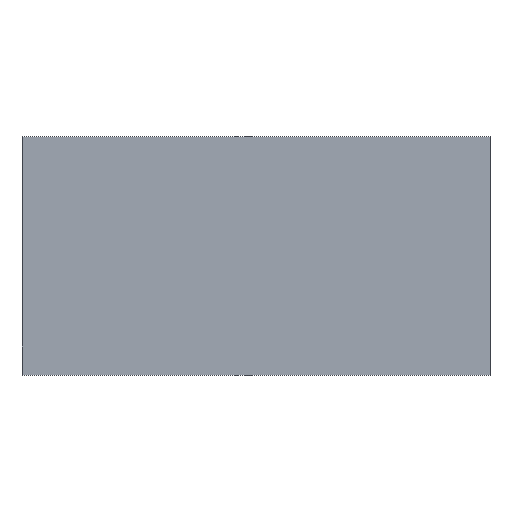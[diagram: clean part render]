
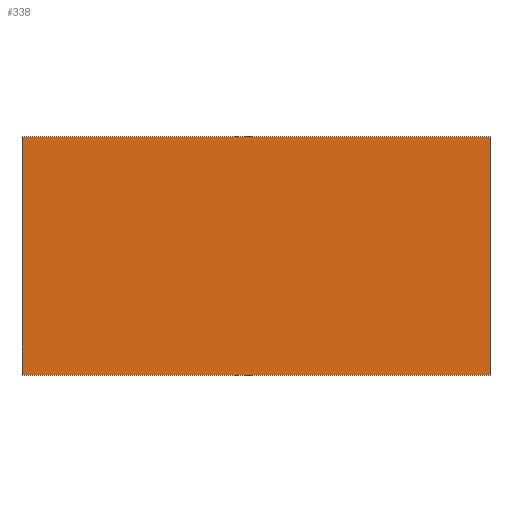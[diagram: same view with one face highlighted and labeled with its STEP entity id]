
A CAD part, top view. The second image highlights one B-rep face of the part: STEP entity #338.
In plain terms, the highlighted planar face has unit normal (0, 0, 1).
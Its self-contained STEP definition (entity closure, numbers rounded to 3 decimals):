
#24 = VERTEX_POINT('',#25);
#25 = CARTESIAN_POINT('',(563.,-14.,29.));
#32 = PLANE('',#33);
#33 = AXIS2_PLACEMENT_3D('',#34,#35,#36);
#34 = CARTESIAN_POINT('',(563.,-14.,16.));
#35 = DIRECTION('',(1.,0.,0.));
#36 = DIRECTION('',(0.,0.,1.));
#44 = PLANE('',#45);
#45 = AXIS2_PLACEMENT_3D('',#46,#47,#48);
#46 = CARTESIAN_POINT('',(563.,-14.,16.));
#47 = DIRECTION('',(0.,1.,0.));
#48 = DIRECTION('',(0.,0.,1.));
#85 = VERTEX_POINT('',#86);
#86 = CARTESIAN_POINT('',(563.,14.,29.));
#100 = PLANE('',#101);
#101 = AXIS2_PLACEMENT_3D('',#102,#103,#104);
#102 = CARTESIAN_POINT('',(563.,14.,16.));
#103 = DIRECTION('',(0.,1.,0.));
#104 = DIRECTION('',(0.,0.,1.));
#112 = EDGE_CURVE('',#24,#85,#113,.T.);
#113 = SURFACE_CURVE('',#114,(#118,#125),.PCURVE_S1.);
#114 = LINE('',#115,#116);
#115 = CARTESIAN_POINT('',(563.,-14.,29.));
#116 = VECTOR('',#117,1.);
#117 = DIRECTION('',(0.,1.,0.));
#118 = PCURVE('',#32,#119);
#119 = DEFINITIONAL_REPRESENTATION('',(#120),#124);
#120 = LINE('',#121,#122);
#121 = CARTESIAN_POINT('',(13.,0.));
#122 = VECTOR('',#123,1.);
#123 = DIRECTION('',(0.,-1.));
#124 = ( GEOMETRIC_REPRESENTATION_CONTEXT(2) 
PARAMETRIC_REPRESENTATION_CONTEXT() REPRESENTATION_CONTEXT('2D SPACE',''
  ) );
#125 = PCURVE('',#126,#131);
#126 = PLANE('',#127);
#127 = AXIS2_PLACEMENT_3D('',#128,#129,#130);
#128 = CARTESIAN_POINT('',(563.,-14.,29.));
#129 = DIRECTION('',(0.,0.,1.));
#130 = DIRECTION('',(1.,0.,0.));
#131 = DEFINITIONAL_REPRESENTATION('',(#132),#136);
#132 = LINE('',#133,#134);
#133 = CARTESIAN_POINT('',(0.,0.));
#134 = VECTOR('',#135,1.);
#135 = DIRECTION('',(0.,1.));
#136 = ( GEOMETRIC_REPRESENTATION_CONTEXT(2) 
PARAMETRIC_REPRESENTATION_CONTEXT() REPRESENTATION_CONTEXT('2D SPACE',''
  ) );
#144 = VERTEX_POINT('',#145);
#145 = CARTESIAN_POINT('',(618.,-14.,29.));
#152 = PLANE('',#153);
#153 = AXIS2_PLACEMENT_3D('',#154,#155,#156);
#154 = CARTESIAN_POINT('',(618.,-14.,16.));
#155 = DIRECTION('',(1.,0.,0.));
#156 = DIRECTION('',(0.,0.,1.));
#195 = VERTEX_POINT('',#196);
#196 = CARTESIAN_POINT('',(618.,14.,29.));
#217 = EDGE_CURVE('',#144,#195,#218,.T.);
#218 = SURFACE_CURVE('',#219,(#223,#230),.PCURVE_S1.);
#219 = LINE('',#220,#221);
#220 = CARTESIAN_POINT('',(618.,-14.,29.));
#221 = VECTOR('',#222,1.);
#222 = DIRECTION('',(0.,1.,0.));
#223 = PCURVE('',#152,#224);
#224 = DEFINITIONAL_REPRESENTATION('',(#225),#229);
#225 = LINE('',#226,#227);
#226 = CARTESIAN_POINT('',(13.,0.));
#227 = VECTOR('',#228,1.);
#228 = DIRECTION('',(0.,-1.));
#229 = ( GEOMETRIC_REPRESENTATION_CONTEXT(2) 
PARAMETRIC_REPRESENTATION_CONTEXT() REPRESENTATION_CONTEXT('2D SPACE',''
  ) );
#230 = PCURVE('',#126,#231);
#231 = DEFINITIONAL_REPRESENTATION('',(#232),#236);
#232 = LINE('',#233,#234);
#233 = CARTESIAN_POINT('',(55.,0.));
#234 = VECTOR('',#235,1.);
#235 = DIRECTION('',(0.,1.));
#236 = ( GEOMETRIC_REPRESENTATION_CONTEXT(2) 
PARAMETRIC_REPRESENTATION_CONTEXT() REPRESENTATION_CONTEXT('2D SPACE',''
  ) );
#263 = EDGE_CURVE('',#24,#144,#264,.T.);
#264 = SURFACE_CURVE('',#265,(#269,#276),.PCURVE_S1.);
#265 = LINE('',#266,#267);
#266 = CARTESIAN_POINT('',(563.,-14.,29.));
#267 = VECTOR('',#268,1.);
#268 = DIRECTION('',(1.,0.,0.));
#269 = PCURVE('',#44,#270);
#270 = DEFINITIONAL_REPRESENTATION('',(#271),#275);
#271 = LINE('',#272,#273);
#272 = CARTESIAN_POINT('',(13.,0.));
#273 = VECTOR('',#274,1.);
#274 = DIRECTION('',(0.,1.));
#275 = ( GEOMETRIC_REPRESENTATION_CONTEXT(2) 
PARAMETRIC_REPRESENTATION_CONTEXT() REPRESENTATION_CONTEXT('2D SPACE',''
  ) );
#276 = PCURVE('',#126,#277);
#277 = DEFINITIONAL_REPRESENTATION('',(#278),#282);
#278 = LINE('',#279,#280);
#279 = CARTESIAN_POINT('',(0.,0.));
#280 = VECTOR('',#281,1.);
#281 = DIRECTION('',(1.,0.));
#282 = ( GEOMETRIC_REPRESENTATION_CONTEXT(2) 
PARAMETRIC_REPRESENTATION_CONTEXT() REPRESENTATION_CONTEXT('2D SPACE',''
  ) );
#310 = EDGE_CURVE('',#85,#195,#311,.T.);
#311 = SURFACE_CURVE('',#312,(#316,#323),.PCURVE_S1.);
#312 = LINE('',#313,#314);
#313 = CARTESIAN_POINT('',(563.,14.,29.));
#314 = VECTOR('',#315,1.);
#315 = DIRECTION('',(1.,0.,0.));
#316 = PCURVE('',#100,#317);
#317 = DEFINITIONAL_REPRESENTATION('',(#318),#322);
#318 = LINE('',#319,#320);
#319 = CARTESIAN_POINT('',(13.,0.));
#320 = VECTOR('',#321,1.);
#321 = DIRECTION('',(0.,1.));
#322 = ( GEOMETRIC_REPRESENTATION_CONTEXT(2) 
PARAMETRIC_REPRESENTATION_CONTEXT() REPRESENTATION_CONTEXT('2D SPACE',''
  ) );
#323 = PCURVE('',#126,#324);
#324 = DEFINITIONAL_REPRESENTATION('',(#325),#329);
#325 = LINE('',#326,#327);
#326 = CARTESIAN_POINT('',(0.,28.));
#327 = VECTOR('',#328,1.);
#328 = DIRECTION('',(1.,0.));
#329 = ( GEOMETRIC_REPRESENTATION_CONTEXT(2) 
PARAMETRIC_REPRESENTATION_CONTEXT() REPRESENTATION_CONTEXT('2D SPACE',''
  ) );
#338 = ADVANCED_FACE('',(#339),#126,.T.);
#339 = FACE_BOUND('',#340,.T.);
#340 = EDGE_LOOP('',(#341,#342,#343,#344));
#341 = ORIENTED_EDGE('',*,*,#112,.F.);
#342 = ORIENTED_EDGE('',*,*,#263,.T.);
#343 = ORIENTED_EDGE('',*,*,#217,.T.);
#344 = ORIENTED_EDGE('',*,*,#310,.F.);
